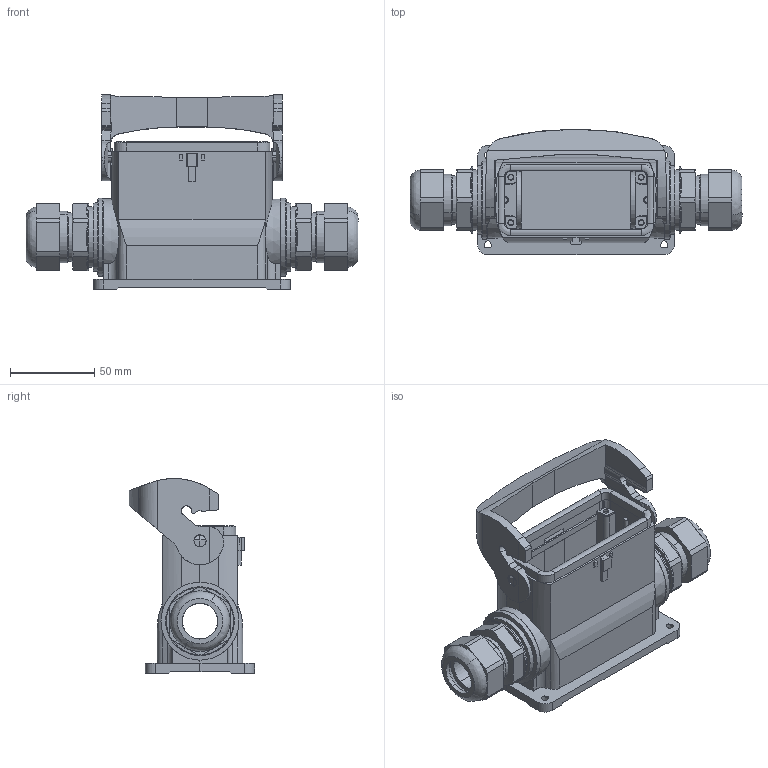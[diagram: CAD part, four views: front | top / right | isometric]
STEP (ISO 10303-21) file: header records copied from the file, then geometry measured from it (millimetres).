
FILE_DESCRIPTION(/* description */ (''),/* implementation_level */ '2;1');
FILE_NAME(/* name */ '100750756ugm000_b.stp',/* time_stamp */ '2022-03-12T06:00:31+01:00',/* author */ (''),/* organization */ (''),/* preprocessor_version */ 'ST-DEVELOPER v16.7',/* originating_system */ 'SIEMENS PLM Software NX 1911',/* authorisation */ '');
FILE_SCHEMA (('AUTOMOTIVE_DESIGN { 1 0 10303 214 3 1 1 1 }'));
Length unit declared in the file: millimetre
Products named in the file (1): 100750756ugm000_b
Bounding box: 197.6 x 74.5 x 116.03 mm (x, y, z)
Volume: 276766.1 mm3; surface area: 98087.3 mm2
Topology: 2 solids, 2 shells, 653 faces, 1919 edges, 1465 vertices
Faces by surface type: plane 400, cylinder 163, cone 54, revolution 20, extrusion 7, torus 5, bspline 4
Full cylindrical faces by diameter (mm): 1.006 x1, 1.477 x1, 3 x4, 3.5 x4, 7.2 x2, 30 x2, 32 x2, 36 x2, 46.4 x2
Entity records: 27376 total; most frequent: CARTESIAN_POINT 5320, DIRECTION 3510, ORIENTED_EDGE 3418, EDGE_CURVE 1709, VECTOR 1242, LINE 1235, VERTEX_POINT 1129, AXIS2_PLACEMENT_3D 1124
